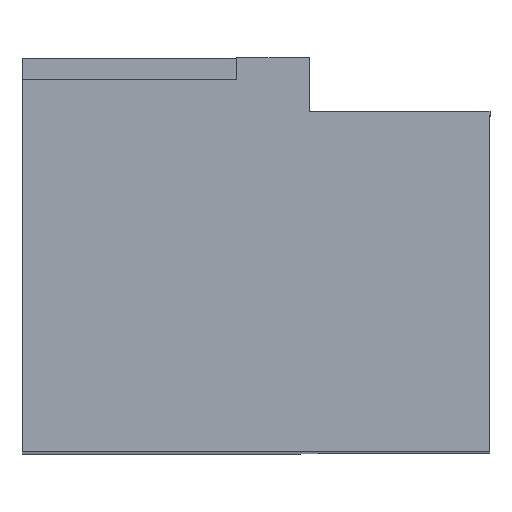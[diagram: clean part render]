
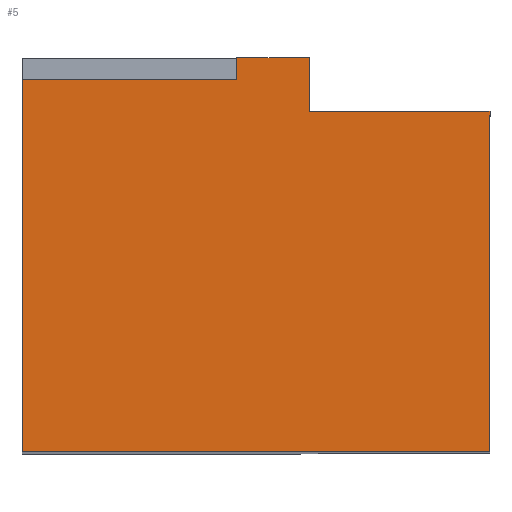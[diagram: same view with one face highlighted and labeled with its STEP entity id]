
A CAD part, top view. The second image highlights one B-rep face of the part: STEP entity #5.
In plain terms, the highlighted planar face has unit normal (0, 0, 1).
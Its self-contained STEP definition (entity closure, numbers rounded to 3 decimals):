
#5 = ADVANCED_FACE ( 'NONE', ( #78 ), #349, .F. ) ;
#33 = VECTOR ( 'NONE', #492, 1000. ) ;
#40 = LINE ( 'NONE', #495, #33 ) ;
#45 = VECTOR ( 'NONE', #503, 1000. ) ;
#54 = LINE ( 'NONE', #510, #45 ) ;
#78 = FACE_OUTER_BOUND ( 'NONE', #128, .T. ) ;
#90 = ORIENTED_EDGE ( 'NONE', *, *, #670, .T. ) ;
#125 = LINE ( 'NONE', #554, #328 ) ;
#128 = EDGE_LOOP ( 'NONE', ( #173, #174, #175, #170, #161, #166, #165, #90 ) ) ;
#161 = ORIENTED_EDGE ( 'NONE', *, *, #763, .T. ) ;
#165 = ORIENTED_EDGE ( 'NONE', *, *, #662, .T. ) ;
#166 = ORIENTED_EDGE ( 'NONE', *, *, #765, .T. ) ;
#170 = ORIENTED_EDGE ( 'NONE', *, *, #720, .T. ) ;
#173 = ORIENTED_EDGE ( 'NONE', *, *, #778, .T. ) ;
#174 = ORIENTED_EDGE ( 'NONE', *, *, #681, .T. ) ;
#175 = ORIENTED_EDGE ( 'NONE', *, *, #751, .T. ) ;
#224 = VECTOR ( 'NONE', #611, 1000. ) ;
#251 = LINE ( 'NONE', #606, #224 ) ;
#260 = LINE ( 'NONE', #580, #262 ) ;
#262 = VECTOR ( 'NONE', #581, 1000. ) ;
#263 = LINE ( 'NONE', #470, #275 ) ;
#274 = LINE ( 'NONE', #612, #714 ) ;
#275 = VECTOR ( 'NONE', #471, 1000. ) ;
#294 = VERTEX_POINT ( 'NONE', #394 ) ;
#306 = VERTEX_POINT ( 'NONE', #406 ) ;
#326 = DIRECTION ( 'NONE',  ( 0., -1., 0. ) ) ;
#328 = VECTOR ( 'NONE', #553, 1000. ) ;
#329 = DIRECTION ( 'NONE',  ( 0., 0., -1. ) ) ;
#349 = PLANE ( 'NONE',  #666 ) ;
#359 = VERTEX_POINT ( 'NONE', #531 ) ;
#362 = VERTEX_POINT ( 'NONE', #525 ) ;
#364 = VERTEX_POINT ( 'NONE', #527 ) ;
#365 = VERTEX_POINT ( 'NONE', #528 ) ;
#366 = VERTEX_POINT ( 'NONE', #529 ) ;
#367 = VERTEX_POINT ( 'NONE', #520 ) ;
#374 = CARTESIAN_POINT ( 'NONE',  ( 18., -17.5, 12.85 ) ) ;
#394 = CARTESIAN_POINT ( 'NONE',  ( 9.5, -1.5, 12.85 ) ) ;
#406 = CARTESIAN_POINT ( 'NONE',  ( -4., 0., 12.85 ) ) ;
#470 = CARTESIAN_POINT ( 'NONE',  ( 6.1, 0., 12.85 ) ) ;
#471 = DIRECTION ( 'NONE',  ( -1., 0., 0. ) ) ;
#492 = DIRECTION ( 'NONE',  ( -1., 0., 0. ) ) ;
#495 = CARTESIAN_POINT ( 'NONE',  ( 6.1, 1., 12.85 ) ) ;
#503 = DIRECTION ( 'NONE',  ( 0., 1., 0. ) ) ;
#510 = CARTESIAN_POINT ( 'NONE',  ( 9.5, 1., 12.85 ) ) ;
#520 = CARTESIAN_POINT ( 'NONE',  ( 6.1, 0., 12.85 ) ) ;
#525 = CARTESIAN_POINT ( 'NONE',  ( 18., -17.5, 12.85 ) ) ;
#527 = CARTESIAN_POINT ( 'NONE',  ( 6.1, 1., 12.85 ) ) ;
#528 = CARTESIAN_POINT ( 'NONE',  ( -4., -17.5, 12.85 ) ) ;
#529 = CARTESIAN_POINT ( 'NONE',  ( 18., -1.5, 12.85 ) ) ;
#531 = CARTESIAN_POINT ( 'NONE',  ( 9.5, 1., 12.85 ) ) ;
#553 = DIRECTION ( 'NONE',  ( 0., -1., 0. ) ) ;
#554 = CARTESIAN_POINT ( 'NONE',  ( -4., -17.5, 12.85 ) ) ;
#580 = CARTESIAN_POINT ( 'NONE',  ( 18., -17.5, 12.85 ) ) ;
#581 = DIRECTION ( 'NONE',  ( 1., 0., 0. ) ) ;
#606 = CARTESIAN_POINT ( 'NONE',  ( 18., -1.5, 12.85 ) ) ;
#611 = DIRECTION ( 'NONE',  ( 0., 1., 0. ) ) ;
#612 = CARTESIAN_POINT ( 'NONE',  ( 9.5, -1.5, 12.85 ) ) ;
#613 = DIRECTION ( 'NONE',  ( -1., 0., 0. ) ) ;
#622 = CARTESIAN_POINT ( 'NONE',  ( 6.1, -16.5, 12.85 ) ) ;
#623 = DIRECTION ( 'NONE',  ( 0., -1., 0. ) ) ;
#662 = EDGE_CURVE ( 'NONE', #294, #359, #54, .T. ) ;
#666 = AXIS2_PLACEMENT_3D ( 'NONE', #374, #329, #326 ) ;
#670 = EDGE_CURVE ( 'NONE', #359, #364, #40, .T. ) ;
#681 = EDGE_CURVE ( 'NONE', #367, #306, #263, .T. ) ;
#685 = VECTOR ( 'NONE', #623, 1000. ) ;
#706 = LINE ( 'NONE', #622, #685 ) ;
#714 = VECTOR ( 'NONE', #613, 1000. ) ;
#720 = EDGE_CURVE ( 'NONE', #365, #362, #260, .T. ) ;
#751 = EDGE_CURVE ( 'NONE', #306, #365, #125, .T. ) ;
#763 = EDGE_CURVE ( 'NONE', #362, #366, #251, .T. ) ;
#765 = EDGE_CURVE ( 'NONE', #366, #294, #274, .T. ) ;
#778 = EDGE_CURVE ( 'NONE', #364, #367, #706, .T. ) ;
